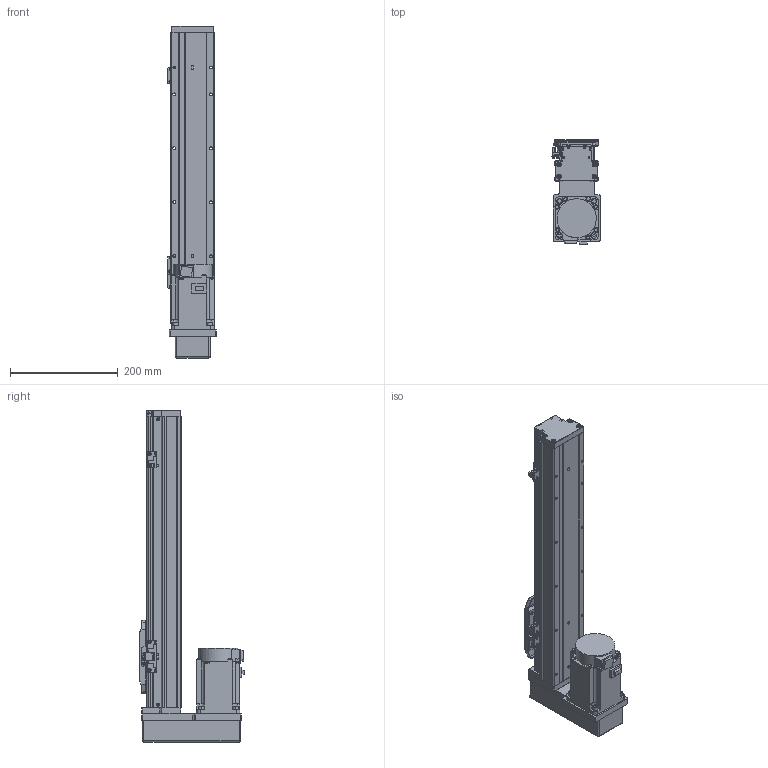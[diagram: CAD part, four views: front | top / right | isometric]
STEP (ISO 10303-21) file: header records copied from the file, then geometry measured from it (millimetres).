
FILE_DESCRIPTION (( 'STEP AP203' ), '1' );
FILE_NAME ('GTH8-350-BM-M75-C4.step', '2023-02-14T02:28:14', ( '微软用户' ), ( '微软中国' ), 'SwSTEP 2.0', 'SolidWorks 2020', '' );
FILE_SCHEMA (( 'CONFIG_CONTROL_DESIGN' ));
Length unit declared in the file: millimetre
Products named in the file (18): GBT 70.3-M3℅6; GBT96.1-2002 3×0.8; GTH80-022; BTH-M3X5X6; GTH80-001_350; GBT 70.1-M3℅6; CTHA86-015-3_CTHA86-015-4; GTH80-003; GBT 70.1-M4×16; CTHA86-035; GTH80-004; GTH80-028; hg-kn73j_-s100; GTH80-006; GTH50-024; GTH8-350-BM-M75-C4; GTH80-013; GTH50-023
Assembly tree (57 placements, depth 2):
  GTH8-350-BM-M75-C4
    GTH80-001_350
    GTH80-003
    GTH80-004
    GTH80-006
    GTH80-013
    GBT 70.3-M3℅6  x4
    GTH80-022
    GBT 70.1-M3℅6  x14
    GBT 70.1-M4×16  x8
    GTH80-028  x2
    GTH50-024  x3
    GTH50-023  x3
    GBT96.1-2002 3×0.8  x6
    BTH-M3X5X6  x8
    CTHA86-015-3_CTHA86-015-4
    CTHA86-035
    hg-kn73j_-s100
Bounding box: 89.4 x 195.3 x 616 mm (x, y, z)
Volume: 3885125.9 mm3; surface area: 422238.7 mm2
Topology: 59 solids, 59 shells, 2187 faces, 5070 edges, 3104 vertices
Faces by surface type: plane 1153, cylinder 619, cone 243, torus 158, sphere 12, bspline 2
Entity records: 39292 total; most frequent: CARTESIAN_POINT 6599, DIRECTION 6473, ORIENTED_EDGE 5950, EDGE_CURVE 2975, AXIS2_PLACEMENT_3D 2278, VECTOR 1917, LINE 1917, VERTEX_POINT 1879
